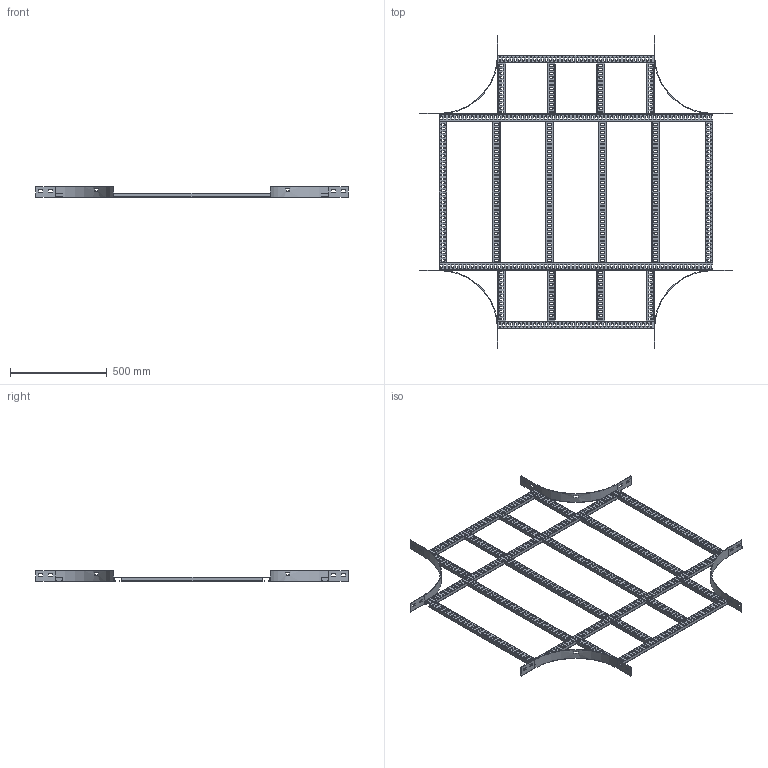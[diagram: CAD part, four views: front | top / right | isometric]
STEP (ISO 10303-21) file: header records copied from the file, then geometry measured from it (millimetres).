
FILE_DESCRIPTION(/* description */ ('','CAx-IF Rec.Pracs.---Representation and Presentation of Product Manufacturing Information (PMI)---4.0---2014-10-13'),/* implementation_level */ '2;1');
FILE_NAME(/* name */ 'Eurostrut_ECO60-800-300_Crossover for Cable Ladder ECL.step',/* time_stamp */ '2026-09-03T13:21:14+02:00',/* author */ (''),/* organization */ (''),/* preprocessor_version */ 'ST-DEVELOPER v20.1',/* originating_system */ 'Autodesk Revit 2027 27.2.0.39',/* authorisation */ '');
FILE_SCHEMA (('AP242_MANAGED_MODEL_BASED_3D_ENGINEERING_MIM_LF { 1 0 10303 442 2 1 4 }'));
Products named in the file (10): TopLevelAssembly; Sweep; Sweep_1; Sweep_2; Sweep_3; Eurostrut_Cable Ladder_Rung_With slots; Eurostrut_Cable Ladder_Rung_With slots_1; Eurostrut_Cable Ladder_Rung Array Straight_Slotted; Eurostrut_Cable Ladder_Rung Array Straight_Slotted_1; Eurostrut_Cable Ladder_Accessory End_54-94-142
Assembly tree (19 placements, depth 2):
  TopLevelAssembly
    Sweep
    Sweep_1
    Eurostrut_Cable Ladder_Rung_With slots  x2
    Eurostrut_Cable Ladder_Rung_With slots_1  x2
    Sweep_2
    Sweep_3
    Eurostrut_Cable Ladder_Rung Array Straight_Slotted
    Eurostrut_Cable Ladder_Rung Array Straight_Slotted_1  x2
    Eurostrut_Cable Ladder_Accessory End_54-94-142  x8
Bounding box: 1611 x 1611 x 54 mm (x, y, z)
Volume: 1755520.7 mm3; surface area: 2165728.2 mm2
Topology: 30 solids, 30 shells, 2644 faces, 7752 edges, 5168 vertices
Faces by surface type: plane 1480, bspline 1084, cylinder 80
Entity records: 82778 total; most frequent: CARTESIAN_POINT 34009, ORIENTED_EDGE 10512, DIRECTION 9014, EDGE_CURVE 5256, LINE 3612, VECTOR 3612, VERTEX_POINT 3504, AXIS2_PLACEMENT_3D 2701
